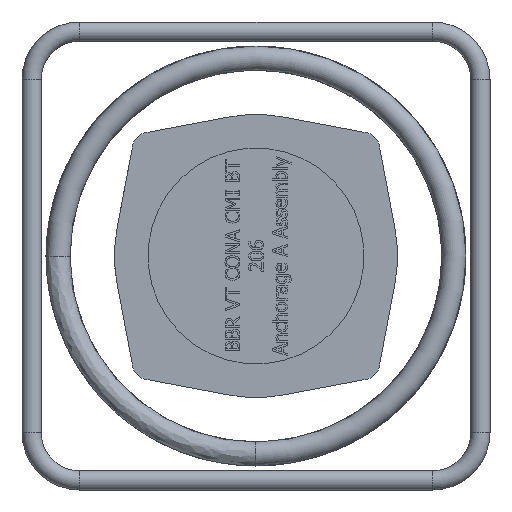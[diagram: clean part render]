
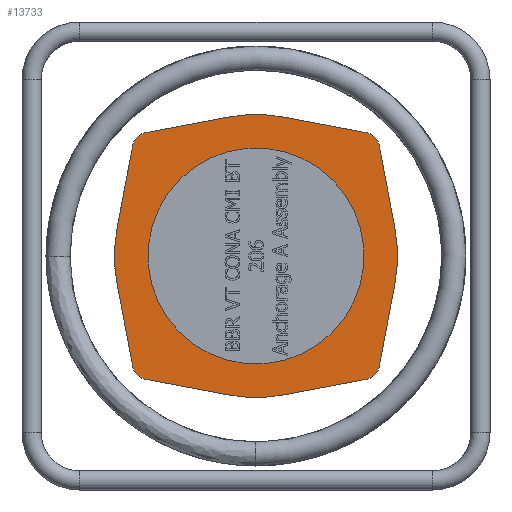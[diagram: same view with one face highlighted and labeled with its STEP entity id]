
A CAD part, left-side view. The second image highlights one B-rep face of the part: STEP entity #13733.
In plain terms, the highlighted planar face has unit normal (-1, 0, 0).
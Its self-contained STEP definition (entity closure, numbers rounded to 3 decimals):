
#1009=FACE_BOUND('',#4954,.T.);
#1314=PLANE('',#14223);
#2364=LINE('',#24679,#3465);
#2365=LINE('',#24683,#3466);
#2366=LINE('',#24687,#3467);
#2367=LINE('',#24691,#3468);
#2368=LINE('',#24695,#3469);
#2369=LINE('',#24699,#3470);
#2370=LINE('',#24703,#3471);
#2371=LINE('',#24706,#3472);
#3465=VECTOR('',#16218,10.);
#3466=VECTOR('',#16221,10.);
#3467=VECTOR('',#16224,10.);
#3468=VECTOR('',#16227,10.);
#3469=VECTOR('',#16230,10.);
#3470=VECTOR('',#16233,10.);
#3471=VECTOR('',#16236,10.);
#3472=VECTOR('',#16239,10.);
#4177=FACE_OUTER_BOUND('',#4953,.T.);
#4953=EDGE_LOOP('',(#11720,#11721,#11722,#11723,#11724,#11725,#11726,#11727,
#11728,#11729,#11730,#11731,#11732,#11733,#11734,#11735));
#4954=EDGE_LOOP('',(#11736));
#5105=CIRCLE('',#14219,45.);
#5108=CIRCLE('',#14224,59.);
#5109=CIRCLE('',#14225,7.);
#5110=CIRCLE('',#14226,59.);
#5111=CIRCLE('',#14227,7.);
#5112=CIRCLE('',#14228,59.);
#5113=CIRCLE('',#14229,7.);
#5114=CIRCLE('',#14230,59.);
#5115=CIRCLE('',#14231,7.);
#6359=VERTEX_POINT('',#24666);
#6362=VERTEX_POINT('',#24675);
#6363=VERTEX_POINT('',#24676);
#6364=VERTEX_POINT('',#24678);
#6365=VERTEX_POINT('',#24680);
#6366=VERTEX_POINT('',#24682);
#6367=VERTEX_POINT('',#24684);
#6368=VERTEX_POINT('',#24686);
#6369=VERTEX_POINT('',#24688);
#6370=VERTEX_POINT('',#24690);
#6371=VERTEX_POINT('',#24692);
#6372=VERTEX_POINT('',#24694);
#6373=VERTEX_POINT('',#24696);
#6374=VERTEX_POINT('',#24698);
#6375=VERTEX_POINT('',#24700);
#6376=VERTEX_POINT('',#24702);
#6377=VERTEX_POINT('',#24704);
#8171=EDGE_CURVE('',#6359,#6359,#5105,.T.);
#8175=EDGE_CURVE('',#6362,#6363,#5108,.T.);
#8176=EDGE_CURVE('',#6364,#6363,#2364,.T.);
#8177=EDGE_CURVE('',#6364,#6365,#5109,.T.);
#8178=EDGE_CURVE('',#6365,#6366,#2365,.T.);
#8179=EDGE_CURVE('',#6366,#6367,#5110,.T.);
#8180=EDGE_CURVE('',#6368,#6367,#2366,.T.);
#8181=EDGE_CURVE('',#6368,#6369,#5111,.T.);
#8182=EDGE_CURVE('',#6369,#6370,#2367,.T.);
#8183=EDGE_CURVE('',#6370,#6371,#5112,.T.);
#8184=EDGE_CURVE('',#6372,#6371,#2368,.T.);
#8185=EDGE_CURVE('',#6372,#6373,#5113,.T.);
#8186=EDGE_CURVE('',#6373,#6374,#2369,.T.);
#8187=EDGE_CURVE('',#6374,#6375,#5114,.T.);
#8188=EDGE_CURVE('',#6376,#6375,#2370,.T.);
#8189=EDGE_CURVE('',#6376,#6377,#5115,.T.);
#8190=EDGE_CURVE('',#6377,#6362,#2371,.T.);
#11720=ORIENTED_EDGE('',*,*,#8175,.T.);
#11721=ORIENTED_EDGE('',*,*,#8176,.F.);
#11722=ORIENTED_EDGE('',*,*,#8177,.T.);
#11723=ORIENTED_EDGE('',*,*,#8178,.T.);
#11724=ORIENTED_EDGE('',*,*,#8179,.T.);
#11725=ORIENTED_EDGE('',*,*,#8180,.F.);
#11726=ORIENTED_EDGE('',*,*,#8181,.T.);
#11727=ORIENTED_EDGE('',*,*,#8182,.T.);
#11728=ORIENTED_EDGE('',*,*,#8183,.T.);
#11729=ORIENTED_EDGE('',*,*,#8184,.F.);
#11730=ORIENTED_EDGE('',*,*,#8185,.T.);
#11731=ORIENTED_EDGE('',*,*,#8186,.T.);
#11732=ORIENTED_EDGE('',*,*,#8187,.T.);
#11733=ORIENTED_EDGE('',*,*,#8188,.F.);
#11734=ORIENTED_EDGE('',*,*,#8189,.T.);
#11735=ORIENTED_EDGE('',*,*,#8190,.T.);
#11736=ORIENTED_EDGE('',*,*,#8171,.T.);
#13733=ADVANCED_FACE('',(#4177,#1009),#1314,.T.);
#14219=AXIS2_PLACEMENT_3D('',#24667,#16205,#16206);
#14223=AXIS2_PLACEMENT_3D('',#24674,#16214,#16215);
#14224=AXIS2_PLACEMENT_3D('',#24677,#16216,#16217);
#14225=AXIS2_PLACEMENT_3D('',#24681,#16219,#16220);
#14226=AXIS2_PLACEMENT_3D('',#24685,#16222,#16223);
#14227=AXIS2_PLACEMENT_3D('',#24689,#16225,#16226);
#14228=AXIS2_PLACEMENT_3D('',#24693,#16228,#16229);
#14229=AXIS2_PLACEMENT_3D('',#24697,#16231,#16232);
#14230=AXIS2_PLACEMENT_3D('',#24701,#16234,#16235);
#14231=AXIS2_PLACEMENT_3D('',#24705,#16237,#16238);
#16205=DIRECTION('center_axis',(1.,0.,0.));
#16206=DIRECTION('ref_axis',(0.,-0.817,-0.576));
#16214=DIRECTION('center_axis',(-1.,0.,0.));
#16215=DIRECTION('ref_axis',(0.,-1.,0.));
#16216=DIRECTION('center_axis',(-1.,0.,0.));
#16217=DIRECTION('ref_axis',(0.,0.,
-1.));
#16218=DIRECTION('',(0.,0.983,-0.184));
#16219=DIRECTION('center_axis',(-1.,0.,0.));
#16220=DIRECTION('ref_axis',(0.,0.588,-0.809));
#16221=DIRECTION('',(0.,-0.184,0.983));
#16222=DIRECTION('center_axis',(-1.,0.,0.));
#16223=DIRECTION('ref_axis',(0.,0.,
-1.));
#16224=DIRECTION('',(0.,-0.184,-0.983));
#16225=DIRECTION('center_axis',(-1.,0.,0.));
#16226=DIRECTION('ref_axis',(0.,-0.809,-0.588));
#16227=DIRECTION('',(0.,0.983,0.184));
#16228=DIRECTION('center_axis',(-1.,0.,0.));
#16229=DIRECTION('ref_axis',(0.,0.,
-1.));
#16230=DIRECTION('',(0.,-0.983,0.184));
#16231=DIRECTION('center_axis',(-1.,0.,0.));
#16232=DIRECTION('ref_axis',(0.,-0.588,0.809));
#16233=DIRECTION('',(0.,0.184,-0.983));
#16234=DIRECTION('center_axis',(-1.,0.,0.));
#16235=DIRECTION('ref_axis',(0.,0.,
-1.));
#16236=DIRECTION('',(0.,0.184,0.983));
#16237=DIRECTION('center_axis',(-1.,0.,0.));
#16238=DIRECTION('ref_axis',(0.,0.809,0.588));
#16239=DIRECTION('',(0.,-0.983,-0.184));
#24666=CARTESIAN_POINT('',(-72.28,36.78,25.927));
#24667=CARTESIAN_POINT('Origin',(-72.28,0.,
0.));
#24674=CARTESIAN_POINT('Origin',(-72.28,0.,
-47.));
#24675=CARTESIAN_POINT('',(-72.28,10.882,-57.988));
#24676=CARTESIAN_POINT('',(-72.28,-10.882,-57.988));
#24677=CARTESIAN_POINT('Origin',(-72.28,0.,
0.));
#24678=CARTESIAN_POINT('',(-72.28,-45.839,-51.428));
#24679=CARTESIAN_POINT('',(-72.28,-45.839,-51.428));
#24680=CARTESIAN_POINT('',(-72.28,-51.428,-45.839));
#24681=CARTESIAN_POINT('Origin',(-72.28,-44.548,-44.548));
#24682=CARTESIAN_POINT('',(-72.28,-57.988,-10.882));
#24683=CARTESIAN_POINT('',(-72.28,-51.428,-45.839));
#24684=CARTESIAN_POINT('',(-72.28,-57.988,10.882));
#24685=CARTESIAN_POINT('Origin',(-72.28,0.,
0.));
#24686=CARTESIAN_POINT('',(-72.28,-51.428,45.839));
#24687=CARTESIAN_POINT('',(-72.28,-51.428,45.839));
#24688=CARTESIAN_POINT('',(-72.28,-45.839,51.428));
#24689=CARTESIAN_POINT('Origin',(-72.28,-44.548,44.548));
#24690=CARTESIAN_POINT('',(-72.28,-10.882,57.988));
#24691=CARTESIAN_POINT('',(-72.28,-45.839,51.428));
#24692=CARTESIAN_POINT('',(-72.28,10.882,57.988));
#24693=CARTESIAN_POINT('Origin',(-72.28,0.,
0.));
#24694=CARTESIAN_POINT('',(-72.28,45.839,51.428));
#24695=CARTESIAN_POINT('',(-72.28,45.839,51.428));
#24696=CARTESIAN_POINT('',(-72.28,51.428,45.839));
#24697=CARTESIAN_POINT('Origin',(-72.28,44.548,44.548));
#24698=CARTESIAN_POINT('',(-72.28,57.988,10.882));
#24699=CARTESIAN_POINT('',(-72.28,51.428,45.839));
#24700=CARTESIAN_POINT('',(-72.28,57.988,-10.882));
#24701=CARTESIAN_POINT('Origin',(-72.28,0.,
0.));
#24702=CARTESIAN_POINT('',(-72.28,51.428,-45.839));
#24703=CARTESIAN_POINT('',(-72.28,51.428,-45.839));
#24704=CARTESIAN_POINT('',(-72.28,45.839,-51.428));
#24705=CARTESIAN_POINT('Origin',(-72.28,44.548,-44.548));
#24706=CARTESIAN_POINT('',(-72.28,45.839,-51.428));
